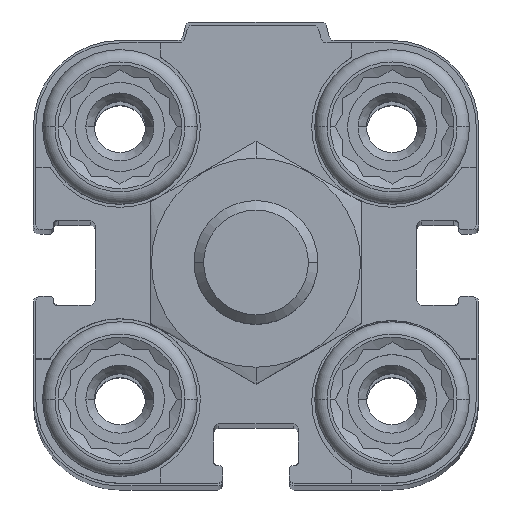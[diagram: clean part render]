
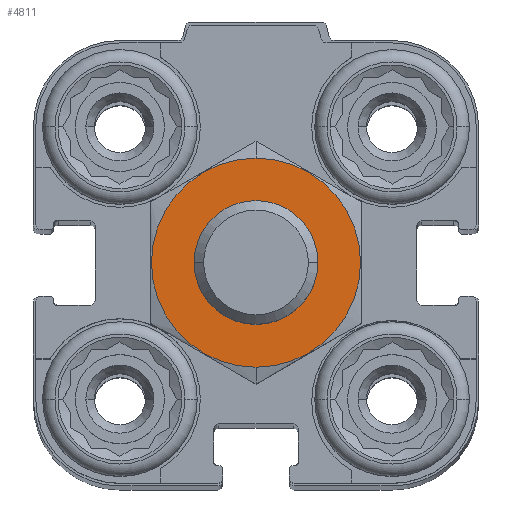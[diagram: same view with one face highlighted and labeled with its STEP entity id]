
A CAD part, top view. The second image highlights one B-rep face of the part: STEP entity #4811.
In plain terms, the highlighted planar face has unit normal (0, 0, 1).
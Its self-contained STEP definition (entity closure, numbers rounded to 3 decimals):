
#1242 = CIRCLE ( 'NONE', #5829, 8.45 ) ;
#1766 = CARTESIAN_POINT ( 'NONE',  ( 0., 0., 13.5 ) ) ;
#3109 = ORIENTED_EDGE ( 'NONE', *, *, #9528, .T. ) ;
#3194 = DIRECTION ( 'NONE',  ( 0., 0., -1. ) ) ;
#3500 = VERTEX_POINT ( 'NONE', #12115 ) ;
#3948 = AXIS2_PLACEMENT_3D ( 'NONE', #1766, #3194, #14411 ) ;
#4083 = CARTESIAN_POINT ( 'NONE',  ( 0., 0., 13.5 ) ) ;
#4790 = EDGE_CURVE ( 'NONE', #19707, #16296, #1242, .T. ) ;
#4811 = ADVANCED_FACE ( 'NONE', ( #15624, #8081 ), #11078, .F. ) ;
#4827 = AXIS2_PLACEMENT_3D ( 'NONE', #18525, #12338, #17185 ) ;
#5733 = DIRECTION ( 'NONE',  ( 0., -1., 0. ) ) ;
#5829 = AXIS2_PLACEMENT_3D ( 'NONE', #4083, #10374, #5733 ) ;
#7252 = CIRCLE ( 'NONE', #3948, 5. ) ;
#7698 = DIRECTION ( 'NONE',  ( 0., -1., 0. ) ) ;
#7882 = DIRECTION ( 'NONE',  ( 0., 0., -1. ) ) ;
#7997 = ORIENTED_EDGE ( 'NONE', *, *, #4790, .F. ) ;
#8081 = FACE_BOUND ( 'NONE', #10083, .T. ) ;
#9034 = CIRCLE ( 'NONE', #10665, 8.45 ) ;
#9258 = CARTESIAN_POINT ( 'NONE',  ( 0., 0., 13.5 ) ) ;
#9528 = EDGE_CURVE ( 'NONE', #3500, #9615, #19954, .T. ) ;
#9615 = VERTEX_POINT ( 'NONE', #16026 ) ;
#10083 = EDGE_LOOP ( 'NONE', ( #3109, #15104 ) ) ;
#10374 = DIRECTION ( 'NONE',  ( 0., 0., -1. ) ) ;
#10665 = AXIS2_PLACEMENT_3D ( 'NONE', #9258, #15540, #7698 ) ;
#11078 = PLANE ( 'NONE',  #20299 ) ;
#12115 = CARTESIAN_POINT ( 'NONE',  ( 0., 5., 13.5 ) ) ;
#12338 = DIRECTION ( 'NONE',  ( 0., 0., -1. ) ) ;
#12833 = ORIENTED_EDGE ( 'NONE', *, *, #17614, .F. ) ;
#13309 = EDGE_CURVE ( 'NONE', #9615, #3500, #7252, .T. ) ;
#13429 = EDGE_LOOP ( 'NONE', ( #12833, #7997 ) ) ;
#14411 = DIRECTION ( 'NONE',  ( 0., -1., 0. ) ) ;
#14733 = CARTESIAN_POINT ( 'NONE',  ( 0., 8.45, 13.5 ) ) ;
#15104 = ORIENTED_EDGE ( 'NONE', *, *, #13309, .T. ) ;
#15540 = DIRECTION ( 'NONE',  ( 0., 0., -1. ) ) ;
#15624 = FACE_OUTER_BOUND ( 'NONE', #13429, .T. ) ;
#16026 = CARTESIAN_POINT ( 'NONE',  ( 0., -5., 13.5 ) ) ;
#16296 = VERTEX_POINT ( 'NONE', #17079 ) ;
#17079 = CARTESIAN_POINT ( 'NONE',  ( 0., -8.45, 13.5 ) ) ;
#17185 = DIRECTION ( 'NONE',  ( 0., -1., 0. ) ) ;
#17368 = CARTESIAN_POINT ( 'NONE',  ( 0., 0., 13.5 ) ) ;
#17614 = EDGE_CURVE ( 'NONE', #16296, #19707, #9034, .T. ) ;
#18525 = CARTESIAN_POINT ( 'NONE',  ( 0., 0., 13.5 ) ) ;
#19002 = DIRECTION ( 'NONE',  ( 0., -1., 0. ) ) ;
#19707 = VERTEX_POINT ( 'NONE', #14733 ) ;
#19954 = CIRCLE ( 'NONE', #4827, 5. ) ;
#20299 = AXIS2_PLACEMENT_3D ( 'NONE', #17368, #7882, #19002 ) ;
